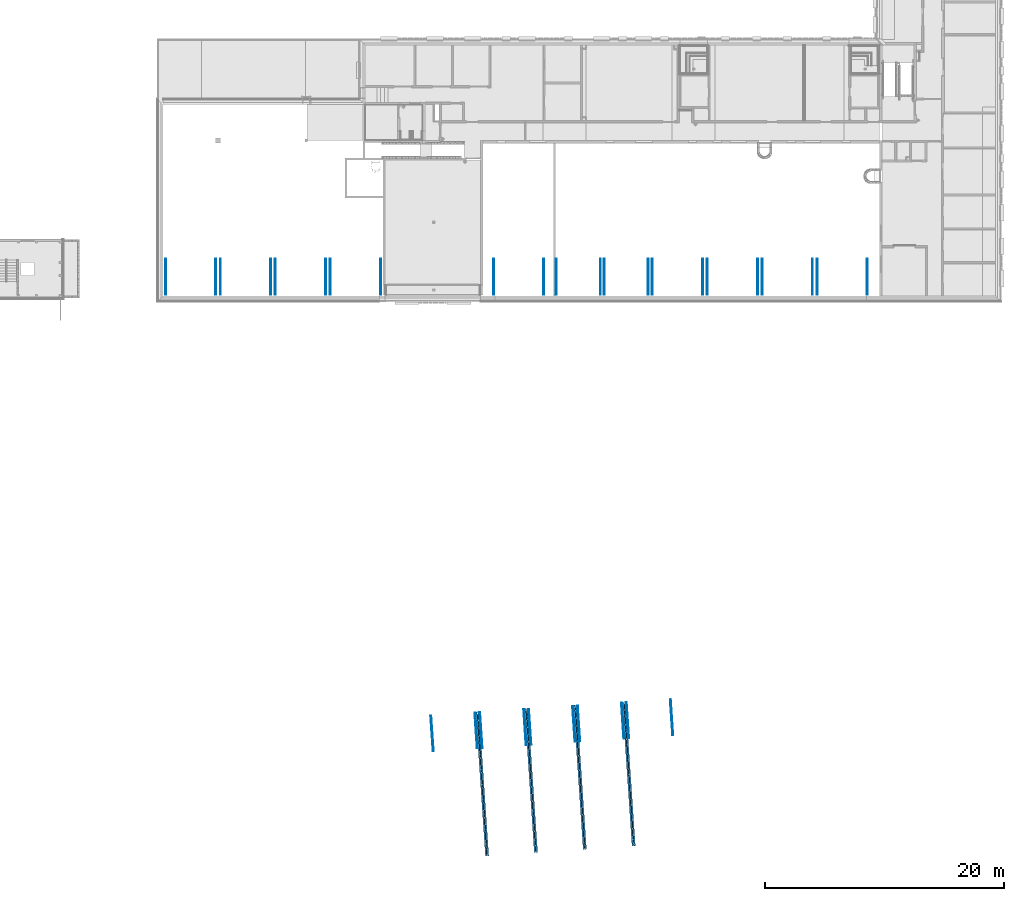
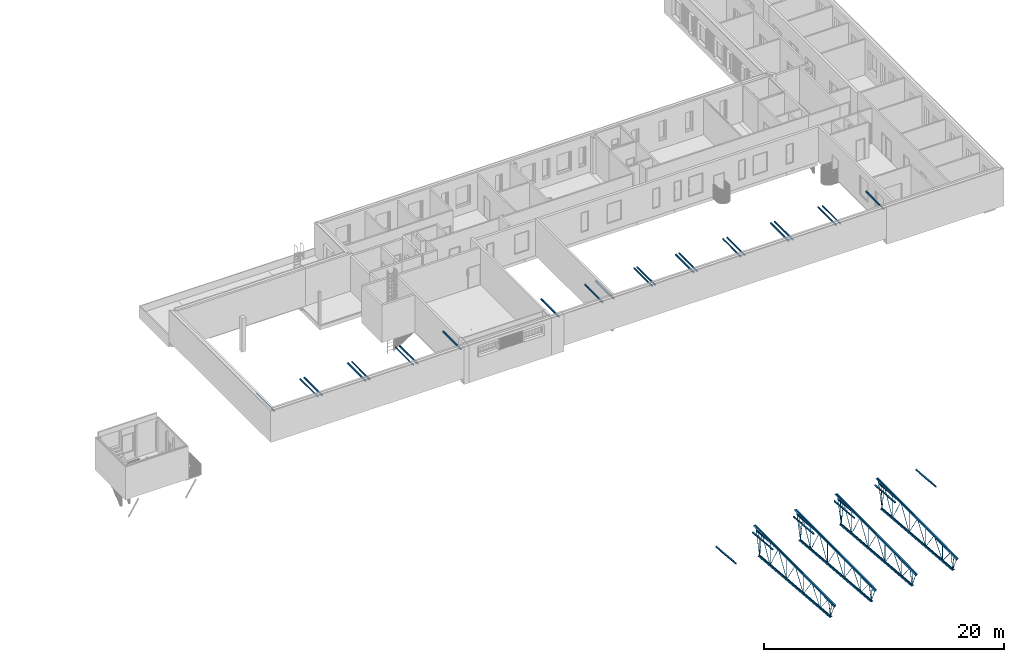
# One storey, part 2 of 100: 36 beams.
"""IFC2X3 building model written with IfcOpenShell, lengths in millimetres."""

from ifc_helpers import new_model, entity, si_unit, converted_unit, derived_unit, money_unit, direction, frame, frame_2d, origin_with_axes, place, context, subcontext, project, spatial, rectangle, extrude, faceted_brep, source, transform, mapped, material, type_object, element, save


model = new_model("IFC2X3")

# Units and contexts
model_context = context("Model", 3, precision=0.01, world=origin_with_axes(), true_north=direction((0.0, 1.0)))
body_context = subcontext(model_context, "Body", "Model", "MODEL_VIEW")
ifc_project = project(units=[si_unit("LENGTHUNIT", "METRE", prefix="MILLI"), si_unit("AREAUNIT", "SQUARE_METRE"), si_unit("VOLUMEUNIT", "CUBIC_METRE"), converted_unit("PLANEANGLEUNIT", "DEGREE", entity("IfcPlaneAngleMeasure", 0.0174532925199), si_unit("PLANEANGLEUNIT", "RADIAN"), dimensions=[0, 0, 0, 0, 0, 0, 0]), si_unit("SOLIDANGLEUNIT", "STERADIAN"), money_unit("EUR"), converted_unit("TIMEUNIT", "Year", entity("IfcTimeMeasure", 31556926.0), si_unit("TIMEUNIT", "SECOND"), dimensions=[0, 0, 1, 0, 0, 0, 0]), si_unit("MASSUNIT", "GRAM", prefix="KILO"), si_unit("THERMODYNAMICTEMPERATUREUNIT", "DEGREE_CELSIUS"), si_unit("LUMINOUSINTENSITYUNIT", "LUMEN"), si_unit("ENERGYUNIT", "JOULE", prefix="MEGA"), derived_unit("THERMALCONDUCTANCEUNIT", [(si_unit("POWERUNIT", "WATT"), 1), (si_unit("LENGTHUNIT", "METRE"), -1), (si_unit("THERMODYNAMICTEMPERATUREUNIT", "KELVIN"), -1)]), derived_unit("SPECIFICHEATCAPACITYUNIT", [(si_unit("ENERGYUNIT", "JOULE"), 1), (si_unit("MASSUNIT", "GRAM", prefix="KILO"), -1), (si_unit("THERMODYNAMICTEMPERATUREUNIT", "KELVIN"), -1)]), derived_unit("MASSDENSITYUNIT", [(si_unit("MASSUNIT", "GRAM", prefix="KILO"), 1), (si_unit("VOLUMEUNIT", "CUBIC_METRE"), -1)])], contexts=[model_context])

# Site, building, storey
site_placement = place(None, origin_with_axes())
site = spatial("IfcSite", under=ifc_project, at=site_placement, Name="Politse- ja Piirivalveameti ning Päästeameti ühishoone", CompositionType="ELEMENT")
building_placement = place(site_placement, origin_with_axes())
building = spatial("IfcBuilding", under=site, at=building_placement, Name="Politse- ja Piirivalveameti ning Päästeameti ühishoone", CompositionType="ELEMENT")
storey_placement = place(building_placement, frame((0.0, 0.0, 3800.0), z_axis=(0.0, 0.0, 1.0), x_axis=(1.0, 0.0, 0.0)))
storey = spatial("IfcBuildingStorey", under=building, at=storey_placement, Name="Teine korrus", CompositionType="ELEMENT", Elevation=3800.0)

# Beams
ifc_material_1 = material(Name="KON-00_GENEERILINE - KONSTRUKTSIOON")
beam_type_1 = type_object("IfcBeamType", Name="KON-00_GENEERILINE - KONSTRUKTSIOON 80 x 100", PredefinedType="BEAM")
for number, where, z_axis, x_axis in (
    (1, (4399.34846005, 96.5881643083, 3140.0), (0.0, 0.0, 1.0), (1.0, 0.0, 0.0)),
    (2, (4800.66559551, 96.5881643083, 3140.0), (0.0, 0.0, 1.0), (1.0, 0.0, 0.0)),
    (3, (199.757872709, 96.5881643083, 3140.0), (0.0, 0.0, 1.0), (1.0, 0.0, 0.0)),
    (4, (9000.16441232, 96.5881643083, 3140.0), (0.0, 0.0, 1.0), (1.0, 0.0, 0.0)),
    (5, (9399.48154778, 96.5881643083, 3140.0), (0.0, 0.0, 1.0), (1.0, 0.0, 0.0)),
    (6, (18199.6782559, 96.5881643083, 3140.0), (0.0, 0.0, 1.0), (1.0, 0.0, 0.0)),
    (7, (13599.3611204, 96.5881643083, 3140.0), (0.0, 0.0, 1.0), (1.0, 0.0, 0.0)),
    (8, (13999.6782559, 96.5881643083, 3140.0), (0.0, 0.0, 1.0), (1.0, 0.0, 0.0)),
    (9, (27659.4992359, 96.5881643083, 3140.0), (0.0, 0.0, 1.0), (1.0, 0.0, 0.0)),
    (10, (31859.4992359, 96.5881643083, 3140.0), (0.0, 0.0, 1.0), (1.0, 0.0, 0.0)),
    (11, (40960.3210844, 96.5881643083, 3140.0), (0.0, 0.0, 1.0), (1.0, 0.0, 0.0)),
    (12, (45160.3210844, 96.5881643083, 3140.0), (0.0, 0.0, 1.0), (1.0, 0.0, 0.0)),
    (13, (45560.3281121, 96.5881643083, 3140.0), (0.0, 0.0, 1.0), (1.0, 0.0, 0.0)),
    (14, (49760.3281121, 96.5881643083, 3140.0), (0.0, 0.0, 1.0), (1.0, 0.0, 0.0)),
    (15, (50160.3351399, 96.5881643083, 3140.0), (0.0, 0.0, 1.0), (1.0, 0.0, 0.0)),
    (16, (54360.3351399, 96.5881643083, 3140.0), (0.0, 0.0, 1.0), (1.0, 0.0, 0.0)),
    (17, (54760.3421677, 96.5881643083, 3140.0), (0.0, 0.0, 1.0), (1.0, 0.0, 0.0)),
    (18, (58960.3421677, 96.5881643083, 3140.0), (0.0, 0.0, 1.0), (1.0, 0.0, 0.0)),
    (19, (32909.5366733, 96.5881643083, 3140.0), (0.0, 0.0, 1.0), (1.0, 0.0, 0.0)),
    (20, (36609.7115773, 96.5881643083, 3140.0), (0.0, 0.0, 1.0), (1.0, 0.0, 0.0)),
    (21, (36909.9114587, 96.5881643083, 3140.0), (0.0, 0.0, 1.0), (1.0, 0.0, 0.0)),
    (22, (40610.0863627, 96.5881643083, 3140.0), (0.0, 0.0, 1.0), (1.0, 0.0, 0.0)),
    (23, (26109.1090368, -34892.4626062, 2940.0), (0.0, 0.0, 1.0), (-0.997742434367, -0.0671567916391, 0.0)),
    (24, (22417.2875206, -35140.9544813, 2940.0), (0.0, 0.0, 1.0), (-0.997742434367, -0.0671567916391, 0.0)),
    (25, (30199.8530177, -34617.1197605, 2940.0), (0.0, 0.0, 1.0), (-0.997742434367, -0.0671567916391, 0.0)),
    (26, (26508.0315015, -34865.6116355, 2940.0), (0.0, 0.0, 1.0), (-0.997742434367, -0.0671567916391, 0.0)),
    (27, (34290.5969987, -34341.7769148, 2940.0), (0.0, 0.0, 1.0), (-0.997742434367, -0.0671567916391, 0.0)),
    (28, (30598.7754824, -34590.2687898, 2940.0), (0.0, 0.0, 1.0), (-0.997742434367, -0.0671567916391, 0.0)),
    (29, (38381.3409796, -34066.434069, 2940.0), (0.0, 0.0, 1.0), (-0.997742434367, -0.0671567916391, 0.0)),
    (30, (34689.5194633, -34314.9259441, 2940.0), (0.0, 0.0, 1.0), (-0.997742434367, -0.0671567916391, 0.0)),
    (31, (42472.0849605, -33791.0912233, 2940.0), (0.0, 0.0, 1.0), (-0.997742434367, -0.0671567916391, 0.0)),
    (32, (38780.2634442, -34039.5830984, 2940.0), (0.0, 0.0, 1.0), (-0.997742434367, -0.0671567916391, 0.0)),
):
    element("IfcBeam", number, at=place(storey_placement, frame(where, z_axis=z_axis, x_axis=x_axis)), inside=storey, type_object=beam_type_1, material=ifc_material_1, Name="tõstukse siin", ObjectType="BEAM", context=body_context, shape_type="SweptSolid", body=[
        extrude(rectangle(XDim=100.0, YDim=80.0, at=frame_2d((50.0, 0.0), x_axis=(1.0, 0.0))), frame((0.0, 0.0, 0.0), z_axis=(0.0, 1.0, 0.0), x_axis=(0.0, 0.0, 1.0)), (0.0, 0.0, 1.0), 3000.0),
    ])
ifc_material_2 = material(Name="ET-05_Teras")
beam_type_2 = type_object("IfcBeamType", Name="Top Chord Pitched-1Way 01 23", PredefinedType="BEAM")
shared_shape = source(origin_with_axes(), body_context, "Body", "Brep", [
    faceted_brep([(99.9687646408, 25.0, -10.1663150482), (99.9687646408, 145.0, -10.1663150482), (0.0, 145.0, 0.0), (-5900.0, 145.0, 600.0), (-11800.0, 145.0, 1200.0), (-11998.9737675, 145.0, 1220.23462042), (-11998.9737675, 25.0, 1220.23462042), (-11800.0, 25.0, 1200.0), (-5900.0, 25.0, 600.0), (0.0, 25.0, 0.0), (87.8279923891, 25.0, -129.550575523), (87.8279923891, 30.0, -129.550575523), (99.4628991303, 30.0, -15.1406592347), (99.4628991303, 145.0, -15.1406592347), (-0.505865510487, 145.0, -4.97434418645), (-5900.50586551, 145.0, 595.025655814), (-11800.5058655, 145.0, 1195.02565581), (-11999.479633, 145.0, 1215.26027623), (-11999.479633, 30.0, 1215.26027623), (-12011.1145397, 30.0, 1100.85035994), (-12011.1145397, 25.0, 1100.85035994), (-11812.1407723, 25.0, 1080.61573953), (-5912.14077225, 25.0, 480.615739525), (-12.1407722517, 25.0, -119.384260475), (-11812.1407723, 30.0, 1080.61573953), (-5912.14077225, 30.0, 480.615739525), (-12.1407722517, 30.0, -119.384260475), (-11800.5058655, 30.0, 1195.02565581), (-5900.50586551, 30.0, 595.025655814), (-0.505865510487, 30.0, -4.97434418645)], [[[0, 1, 2, 3, 4, 5, 6, 7, 8, 9]], [[0, 10, 11, 12, 13, 1]], [[1, 13, 14, 15, 16, 17, 5, 4, 3, 2]], [[6, 5, 17, 18, 19, 20]], [[10, 0, 9, 8, 7, 6, 20, 21, 22, 23]], [[11, 10, 23, 22, 21, 20, 19, 24, 25, 26]], [[12, 11, 26, 25, 24, 19, 18, 27, 28, 29]], [[13, 12, 29, 28, 27, 18, 17, 16, 15, 14]]]),
    faceted_brep([(99.9687646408, -25.0, -10.1663150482), (0.0, -25.0, 0.0), (-5900.0, -25.0, 600.0), (-11800.0, -25.0, 1200.0), (-11998.9737675, -25.0, 1220.23462042), (-11998.9737675, -145.0, 1220.23462042), (-11800.0, -145.0, 1200.0), (-5900.0, -145.0, 600.0), (0.0, -145.0, 0.0), (99.9687646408, -145.0, -10.1663150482), (87.8279923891, -25.0, -129.550575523), (-12.1407722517, -25.0, -119.384260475), (-5912.14077225, -25.0, 480.615739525), (-11812.1407723, -25.0, 1080.61573953), (-12011.1145397, -25.0, 1100.85035994), (-12011.1145397, -30.0, 1100.85035994), (-11999.479633, -30.0, 1215.26027623), (-11999.479633, -145.0, 1215.26027623), (-11800.5058655, -145.0, 1195.02565581), (-5900.50586551, -145.0, 595.025655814), (-0.505865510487, -145.0, -4.97434418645), (99.4628991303, -145.0, -15.1406592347), (99.4628991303, -30.0, -15.1406592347), (87.8279923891, -30.0, -129.550575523), (-12.1407722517, -30.0, -119.384260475), (-5912.14077225, -30.0, 480.615739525), (-11812.1407723, -30.0, 1080.61573953), (-0.505865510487, -30.0, -4.97434418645), (-5900.50586551, -30.0, 595.025655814), (-11800.5058655, -30.0, 1195.02565581)], [[[0, 1, 2, 3, 4, 5, 6, 7, 8, 9]], [[10, 11, 12, 13, 14, 4, 3, 2, 1, 0]], [[4, 14, 15, 16, 17, 5]], [[9, 8, 7, 6, 5, 17, 18, 19, 20, 21]], [[0, 9, 21, 22, 23, 10]], [[23, 24, 25, 26, 15, 14, 13, 12, 11, 10]], [[22, 27, 28, 29, 16, 15, 26, 25, 24, 23]], [[21, 20, 19, 18, 17, 16, 29, 28, 27, 22]]]),
    faceted_brep([(-480.0, 25.0, -1500.0), (-600.0, 25.0, -1500.0), (-5900.0, 25.0, -1500.0), (-11200.0, 25.0, -1500.0), (-11320.0, 25.0, -1500.0), (-11320.0, 145.0, -1500.0), (-11200.0, 145.0, -1500.0), (-5900.0, 145.0, -1500.0), (-600.0, 145.0, -1500.0), (-480.0, 145.0, -1500.0), (-480.0, 25.0, -1380.0), (-600.0, 25.0, -1380.0), (-5900.0, 25.0, -1380.0), (-11200.0, 25.0, -1380.0), (-11320.0, 25.0, -1380.0), (-11320.0, 30.0, -1380.0), (-11320.0, 30.0, -1495.0), (-11320.0, 145.0, -1495.0), (-11200.0, 145.0, -1495.0), (-5900.0, 145.0, -1495.0), (-600.0, 145.0, -1495.0), (-480.0, 145.0, -1495.0), (-480.0, 30.0, -1495.0), (-480.0, 30.0, -1380.0), (-600.0, 30.0, -1380.0), (-5900.0, 30.0, -1380.0), (-11200.0, 30.0, -1380.0), (-600.0, 30.0, -1495.0), (-5900.0, 30.0, -1495.0), (-11200.0, 30.0, -1495.0)], [[[0, 1, 2, 3, 4, 5, 6, 7, 8, 9]], [[10, 11, 12, 13, 14, 4, 3, 2, 1, 0]], [[4, 14, 15, 16, 17, 5]], [[9, 8, 7, 6, 5, 17, 18, 19, 20, 21]], [[0, 9, 21, 22, 23, 10]], [[23, 24, 25, 26, 15, 14, 13, 12, 11, 10]], [[22, 27, 28, 29, 16, 15, 26, 25, 24, 23]], [[21, 20, 19, 18, 17, 16, 29, 28, 27, 22]]]),
    faceted_brep([(-480.0, -25.0, -1500.0), (-480.0, -145.0, -1500.0), (-600.0, -145.0, -1500.0), (-5900.0, -145.0, -1500.0), (-11200.0, -145.0, -1500.0), (-11320.0, -145.0, -1500.0), (-11320.0, -25.0, -1500.0), (-11200.0, -25.0, -1500.0), (-5900.0, -25.0, -1500.0), (-600.0, -25.0, -1500.0), (-480.0, -25.0, -1380.0), (-480.0, -30.0, -1380.0), (-480.0, -30.0, -1495.0), (-480.0, -145.0, -1495.0), (-600.0, -145.0, -1495.0), (-5900.0, -145.0, -1495.0), (-11200.0, -145.0, -1495.0), (-11320.0, -145.0, -1495.0), (-11320.0, -30.0, -1495.0), (-11320.0, -30.0, -1380.0), (-11320.0, -25.0, -1380.0), (-11200.0, -25.0, -1380.0), (-5900.0, -25.0, -1380.0), (-600.0, -25.0, -1380.0), (-11200.0, -30.0, -1380.0), (-5900.0, -30.0, -1380.0), (-600.0, -30.0, -1380.0), (-11200.0, -30.0, -1495.0), (-5900.0, -30.0, -1495.0), (-600.0, -30.0, -1495.0)], [[[0, 1, 2, 3, 4, 5, 6, 7, 8, 9]], [[0, 10, 11, 12, 13, 1]], [[1, 13, 14, 15, 16, 17, 5, 4, 3, 2]], [[6, 5, 17, 18, 19, 20]], [[10, 0, 9, 8, 7, 6, 20, 21, 22, 23]], [[11, 10, 23, 22, 21, 20, 19, 24, 25, 26]], [[12, 11, 26, 25, 24, 19, 18, 27, 28, 29]], [[13, 12, 29, 28, 27, 18, 17, 16, 15, 14]]]),
    faceted_brep([(87.3461114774, -80.0, -129.501570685), (87.3461114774, -80.0, -126.501570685), (-232.653888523, -80.0, -126.501570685), (-232.653888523, -80.0, -129.501570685), (87.3461114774, -30.0, -129.501570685), (87.3461114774, -30.0, -79.5015706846), (87.3461114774, -33.0, -79.5015706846), (87.3461114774, -33.0, -126.501570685), (-232.653888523, -33.0, -126.501570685), (-232.653888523, -33.0, -79.5015706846), (-232.653888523, -30.0, -79.5015706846), (-232.653888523, -30.0, -129.501570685)], [[[0, 1, 2, 3]], [[0, 4, 5, 6, 7, 1]], [[1, 7, 8, 2]], [[3, 2, 8, 9, 10, 11]], [[4, 0, 3, 11]], [[5, 4, 11, 10]], [[6, 5, 10, 9]], [[7, 6, 9, 8]]]),
    faceted_brep([(87.3461114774, 80.0, -129.501570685), (-232.653888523, 80.0, -129.501570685), (-232.653888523, 80.0, -126.501570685), (87.3461114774, 80.0, -126.501570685), (87.3461114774, 30.0, -129.501570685), (-232.653888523, 30.0, -129.501570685), (-232.653888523, 30.0, -79.5015706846), (-232.653888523, 33.0, -79.5015706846), (-232.653888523, 33.0, -126.501570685), (87.3461114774, 33.0, -126.501570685), (87.3461114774, 33.0, -79.5015706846), (87.3461114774, 30.0, -79.5015706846)], [[[0, 1, 2, 3]], [[4, 5, 1, 0]], [[1, 5, 6, 7, 8, 2]], [[3, 2, 8, 9]], [[0, 3, 9, 10, 11, 4]], [[11, 6, 5, 4]], [[10, 7, 6, 11]], [[9, 8, 7, 10]]]),
    faceted_brep([(-11812.1407723, -80.0, 1080.61573953), (-11492.1407723, -80.0, 1080.61573953), (-11492.1407723, -80.0, 1083.61573953), (-11812.1407723, -80.0, 1083.61573953), (-11812.1407723, -30.0, 1080.61573953), (-11492.1407723, -30.0, 1080.61573953), (-11492.1407723, -30.0, 1130.61573953), (-11492.1407723, -33.0, 1130.61573953), (-11492.1407723, -33.0, 1083.61573953), (-11812.1407723, -33.0, 1083.61573953), (-11812.1407723, -33.0, 1130.61573953), (-11812.1407723, -30.0, 1130.61573953)], [[[0, 1, 2, 3]], [[4, 5, 1, 0]], [[1, 5, 6, 7, 8, 2]], [[3, 2, 8, 9]], [[0, 3, 9, 10, 11, 4]], [[11, 6, 5, 4]], [[10, 7, 6, 11]], [[9, 8, 7, 10]]]),
    faceted_brep([(-11812.1407723, 80.0, 1080.61573953), (-11812.1407723, 80.0, 1083.61573953), (-11492.1407723, 80.0, 1083.61573953), (-11492.1407723, 80.0, 1080.61573953), (-11812.1407723, 30.0, 1080.61573953), (-11812.1407723, 30.0, 1130.61573953), (-11812.1407723, 33.0, 1130.61573953), (-11812.1407723, 33.0, 1083.61573953), (-11492.1407723, 33.0, 1083.61573953), (-11492.1407723, 33.0, 1130.61573953), (-11492.1407723, 30.0, 1130.61573953), (-11492.1407723, 30.0, 1080.61573953)], [[[0, 1, 2, 3]], [[0, 4, 5, 6, 7, 1]], [[1, 7, 8, 2]], [[3, 2, 8, 9, 10, 11]], [[4, 0, 3, 11]], [[5, 4, 11, 10]], [[6, 5, 10, 9]], [[7, 6, 9, 8]]]),
    faceted_brep([(-2162.5, 21.6506350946, -1495.0), (-2175.0, 0.0, -1495.0), (-2175.0, 0.0, 216.160652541), (-2162.5, 21.6506350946, 214.889466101), (-2137.5, 21.6506350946, -1495.0), (-2125.0, 0.0, -1495.0), (-2137.5, -21.6506350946, -1495.0), (-2162.5, -21.6506350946, -1495.0), (-2162.5, -21.6506350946, 214.889466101), (-2137.5, -21.6506350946, 212.347093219), (-2125.0, 0.0, 211.075906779), (-2137.5, 21.6506350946, 212.347093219)], [[[0, 1, 2, 3]], [[1, 0, 4, 5, 6, 7]], [[1, 7, 8, 2]], [[2, 8, 9, 10, 11, 3]], [[4, 0, 3, 11]], [[5, 4, 11, 10]], [[6, 5, 10, 9]], [[7, 6, 9, 8]]]),
    faceted_brep([(-2114.28391012, 0.0, -1495.0), (-2130.17843003, 21.6506350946, -1495.0), (-890.169567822, 21.6506350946, 83.8045038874), (-880.339135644, 0.0, 76.0835840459), (-2156.36610169, 21.6506350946, -1495.0), (-2130.17843003, -21.6506350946, -1495.0), (-2156.36610169, -21.6506350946, -1495.0), (-2159.83043218, 21.6506350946, -1492.27908016), (-918.374233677, 21.6506350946, 88.3682017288), (-892.649294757, 21.6506350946, 85.7521062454), (-892.649294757, -21.6506350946, 85.7521062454), (-890.169567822, -21.6506350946, 83.8045038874), (-2159.83043218, -21.6506350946, -1492.27908016), (-918.374233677, -21.6506350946, 88.3682017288), (-2169.66086436, 0.0, -1484.55816032), (-933.093123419, 0.0, 89.8650379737)], [[[0, 1, 2, 3]], [[4, 1, 0, 5, 6]], [[1, 4, 7, 8, 9, 2]], [[3, 2, 9, 10, 11]], [[5, 0, 3, 11]], [[12, 6, 5, 11, 10, 13]], [[4, 6, 12, 14, 7]], [[7, 14, 15, 8]], [[9, 8, 15, 13, 10]], [[14, 12, 13, 15]]]),
    faceted_brep([(-2168.48288536, 21.6506350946, -1495.0), (-2183.57963665, 0.0, -1495.0), (-3420.69981773, 0.0, 331.744240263), (-3410.34990886, 21.6506350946, 338.753476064), (-2142.61694915, 21.6506350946, -1495.0), (-2142.61694915, -21.6506350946, -1495.0), (-2168.48288536, -21.6506350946, -1495.0), (-3410.34990886, -21.6506350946, 338.753476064), (-3406.45223769, -21.6506350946, 341.393083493), (-3406.45223769, 21.6506350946, 341.393083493), (-3380.13128116, 21.6506350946, 338.716376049), (-2139.65009114, 21.6506350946, -1492.9907642), (-2129.30018227, 0.0, -1485.9815284), (-2139.65009114, -21.6506350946, -1492.9907642), (-3380.13128116, -21.6506350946, 338.716376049), (-3363.91790625, 0.0, 337.067558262)], [[[0, 1, 2, 3]], [[4, 5, 6, 1, 0]], [[1, 6, 7, 2]], [[2, 7, 8, 9, 3]], [[4, 0, 3, 9, 10, 11]], [[5, 4, 11, 12, 13]], [[13, 14, 8, 7, 6, 5]], [[9, 8, 14, 15, 10]], [[11, 10, 15, 12]], [[12, 15, 14, 13]]]),
    faceted_brep([(-4662.5, 21.6506350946, -1495.0), (-4675.0, 0.0, -1495.0), (-4675.0, 0.0, 470.397940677), (-4662.5, 21.6506350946, 469.126754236), (-4637.5, 21.6506350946, -1495.0), (-4625.0, 0.0, -1495.0), (-4637.5, -21.6506350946, -1495.0), (-4662.5, -21.6506350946, -1495.0), (-4662.5, -21.6506350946, 469.126754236), (-4637.5, -21.6506350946, 466.584381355), (-4625.0, 0.0, 465.313194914), (-4637.5, 21.6506350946, 466.584381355)], [[[0, 1, 2, 3]], [[1, 0, 4, 5, 6, 7]], [[1, 7, 8, 2]], [[2, 8, 9, 10, 11, 3]], [[4, 0, 3, 11]], [[5, 4, 11, 10]], [[6, 5, 10, 9]], [[7, 6, 9, 8]]]),
    faceted_brep([(-4616.42036335, 0.0, -1495.0), (-4631.51711464, 21.6506350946, -1495.0), (-3389.65009114, 21.6506350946, 338.753476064), (-3379.30018227, 0.0, 331.744240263), (-4657.38305085, 21.6506350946, -1495.0), (-4631.51711464, -21.6506350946, -1495.0), (-4657.38305085, -21.6506350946, -1495.0), (-4660.34990886, 21.6506350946, -1492.9907642), (-3417.30831693, 21.6506350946, 342.497091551), (-3391.26757674, 21.6506350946, 339.848880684), (-3391.26757674, -21.6506350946, 339.848880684), (-3389.65009114, -21.6506350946, 338.753476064), (-4660.34990886, -21.6506350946, -1492.9907642), (-3417.30831693, -21.6506350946, 342.497091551), (-4670.69981773, 0.0, -1485.9815284), (-3431.4323394, 0.0, 343.933432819)], [[[0, 1, 2, 3]], [[4, 1, 0, 5, 6]], [[1, 4, 7, 8, 9, 2]], [[3, 2, 9, 10, 11]], [[5, 0, 3, 11]], [[12, 6, 5, 11, 10, 13]], [[4, 6, 12, 14, 7]], [[7, 14, 15, 8]], [[9, 8, 15, 13, 10]], [[14, 12, 13, 15]]]),
    faceted_brep([(-4667.52303501, 21.6506350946, -1495.0), (-4682.06987955, 0.0, -1495.0), (-5921.48232211, 0.0, 587.212903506), (-5910.74116106, 21.6506350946, 593.606451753), (-4641.6, 21.6506350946, -1495.0), (-4641.6, -21.6506350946, -1495.0), (-4667.52303501, -21.6506350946, -1495.0), (-5910.74116106, -21.6506350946, 593.606451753), (-5907.211293, -21.6506350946, 595.707563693), (-5907.211293, 21.6506350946, 595.707563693), (-5881.33156432, 21.6506350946, 593.075726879), (-4639.25883894, 21.6506350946, -1493.60645175), (-4628.51767789, 0.0, -1487.21290351), (-4639.25883894, -21.6506350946, -1493.60645175), (-5881.33156432, -21.6506350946, 593.075726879), (-5865.8474231, 0.0, 591.50106845)], [[[0, 1, 2, 3]], [[4, 5, 6, 1, 0]], [[1, 6, 7, 2]], [[2, 7, 8, 9, 3]], [[4, 0, 3, 9, 10, 11]], [[5, 4, 11, 12, 13]], [[13, 14, 8, 7, 6, 5]], [[9, 8, 14, 15, 10]], [[11, 10, 15, 12]], [[12, 15, 14, 13]]]),
    faceted_brep([(-7162.5, 21.6506350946, -1495.0), (-7175.0, 0.0, -1495.0), (-7175.0, 0.0, 724.635228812), (-7162.5, 21.6506350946, 723.364042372), (-7137.5, 21.6506350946, -1495.0), (-7125.0, 0.0, -1495.0), (-7137.5, -21.6506350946, -1495.0), (-7162.5, -21.6506350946, -1495.0), (-7162.5, -21.6506350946, 723.364042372), (-7137.5, -21.6506350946, 720.82166949), (-7125.0, 0.0, 719.55048305), (-7137.5, 21.6506350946, 720.82166949)], [[[0, 1, 2, 3]], [[1, 0, 4, 5, 6, 7]], [[1, 7, 8, 2]], [[2, 8, 9, 10, 11, 3]], [[4, 0, 3, 11]], [[5, 4, 11, 10]], [[6, 5, 10, 9]], [[7, 6, 9, 8]]]),
    faceted_brep([(-7117.93012045, 0.0, -1495.0), (-7132.47696499, 21.6506350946, -1495.0), (-5889.25883894, 21.6506350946, 593.606451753), (-5878.51767789, 0.0, 587.212903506), (-7158.4, 21.6506350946, -1495.0), (-7132.47696499, -21.6506350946, -1495.0), (-7158.4, -21.6506350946, -1495.0), (-7160.74116106, 21.6506350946, -1493.60645175), (-5916.53733572, 21.6506350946, 596.655974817), (-5889.81692314, 21.6506350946, 593.938644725), (-5889.81692314, -21.6506350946, 593.938644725), (-5889.25883894, -21.6506350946, 593.606451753), (-7160.74116106, -21.6506350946, -1493.60645175), (-5916.53733572, -21.6506350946, 596.655974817), (-7171.48232211, 0.0, -1487.21290351), (-5930.25388091, 0.0, 598.050877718)], [[[0, 1, 2, 3]], [[4, 1, 0, 5, 6]], [[1, 4, 7, 8, 9, 2]], [[3, 2, 9, 10, 11]], [[5, 0, 3, 11]], [[12, 6, 5, 11, 10, 13]], [[4, 6, 12, 14, 7]], [[7, 14, 15, 8]], [[9, 8, 15, 13, 10]], [[14, 12, 13, 15]]]),
    faceted_brep([(-7166.80750319, 21.6506350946, -1495.0), (-7180.96021876, 0.0, -1495.0), (-8422.0805681, 0.0, 842.513444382), (-8411.04028405, 21.6506350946, 848.375366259), (-7140.58305085, 21.6506350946, -1495.0), (-7140.58305085, -21.6506350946, -1495.0), (-7166.80750319, -21.6506350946, -1495.0), (-8411.04028405, -21.6506350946, 848.375366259), (-8407.94399552, -21.6506350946, 850.01936395), (-8407.94399552, 21.6506350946, 850.01936395), (-8382.2186905, 21.6506350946, 847.403231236), (-7138.95971595, 21.6506350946, -1494.13807812), (-7127.9194319, 0.0, -1488.27615625), (-7138.95971595, -21.6506350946, -1494.13807812), (-8382.2186905, -21.6506350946, 847.403231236), (-8367.25817153, 0.0, 845.881822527)], [[[0, 1, 2, 3]], [[4, 5, 6, 1, 0]], [[1, 6, 7, 2]], [[2, 7, 8, 9, 3]], [[4, 0, 3, 9, 10, 11]], [[5, 4, 11, 12, 13]], [[13, 14, 8, 7, 6, 5]], [[9, 8, 14, 15, 10]], [[11, 10, 15, 12]], [[12, 15, 14, 13]]]),
    faceted_brep([(-9662.5, 21.6506350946, -1495.0), (-9675.0, 0.0, -1495.0), (-9675.0, 0.0, 978.872516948), (-9662.5, 21.6506350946, 977.601330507), (-9637.5, 21.6506350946, -1495.0), (-9625.0, 0.0, -1495.0), (-9637.5, -21.6506350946, -1495.0), (-9662.5, -21.6506350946, -1495.0), (-9662.5, -21.6506350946, 977.601330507), (-9637.5, -21.6506350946, 975.058957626), (-9625.0, 0.0, 973.787771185), (-9637.5, 21.6506350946, 975.058957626)], [[[0, 1, 2, 3]], [[1, 0, 4, 5, 6, 7]], [[1, 7, 8, 2]], [[2, 8, 9, 10, 11, 3]], [[4, 0, 3, 11]], [[5, 4, 11, 10]], [[6, 5, 10, 9]], [[7, 6, 9, 8]]]),
    faceted_brep([(-9619.03978124, 0.0, -1495.0), (-9633.19249681, 21.6506350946, -1495.0), (-8389.10409619, 21.6506350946, 848.103441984), (-8388.29204305, 20.3412899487, 848.020860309), (-8377.9194319, 0.0, 842.513444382), (-9659.41694915, 21.6506350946, -1495.0), (-9633.19249681, -21.6506350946, -1495.0), (-9659.41694915, -21.6506350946, -1495.0), (-9661.04028405, 21.6506350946, -1494.13807812), (-8415.95945402, 21.6506350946, 850.834495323), (-8429.38713293, 0.0, 852.200021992), (-8415.95945402, -21.6506350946, 850.834495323), (-8389.10409619, -21.6506350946, 848.103441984), (-8388.29204305, -20.3412899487, 848.020860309), (-9661.04028405, -21.6506350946, -1494.13807812), (-9672.0805681, 0.0, -1488.27615625)], [[[0, 1, 2, 3, 4]], [[5, 1, 0, 6, 7]], [[1, 5, 8, 9, 2]], [[3, 2, 9, 10, 11, 12, 13]], [[4, 3, 13]], [[6, 0, 4, 13, 12]], [[14, 7, 6, 12, 11]], [[5, 7, 14, 15, 8]], [[8, 15, 10, 9]], [[15, 14, 11, 10]]]),
    faceted_brep([(-9666.25717594, 21.6506350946, -1495.0), (-9680.1183155, 0.0, -1495.0), (-10922.5450439, 0.0, 1097.67082716), (-10911.272522, 21.6506350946, 1103.07270171), (-9639.56610169, 21.6506350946, -1495.0), (-9639.56610169, -21.6506350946, -1495.0), (-9666.25717594, -21.6506350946, -1495.0), (-10911.272522, -21.6506350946, 1103.07270171), (-10908.6516942, -21.6506350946, 1104.32862144), (-10908.6516942, 21.6506350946, 1104.32862144), (-10882.896986, 21.6506350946, 1101.70949857), (-9638.72747804, 21.6506350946, -1494.59812544), (-9627.45495609, 0.0, -1489.19625089), (-9638.72747804, -21.6506350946, -1494.59812544), (-10882.896986, -21.6506350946, 1101.70949857), (-10868.3257471, 0.0, 1100.22767767)], [[[0, 1, 2, 3]], [[4, 5, 6, 1, 0]], [[1, 6, 7, 2]], [[2, 7, 8, 9, 3]], [[4, 0, 3, 9, 10, 11]], [[5, 4, 11, 12, 13]], [[13, 14, 8, 7, 6, 5]], [[9, 8, 14, 15, 10]], [[11, 10, 15, 12]], [[12, 15, 14, 13]]]),
    faceted_brep([(-11212.8025122, 21.6506350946, -1495.0), (-11225.3224573, 0.0, -1495.0), (-11374.8989633, 0.0, 1151.74359796), (-11362.3066486, 21.6506350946, 1150.46302358), (-11187.7626219, 21.6506350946, -1495.0), (-11175.2426768, 0.0, -1495.0), (-11187.7626219, -21.6506350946, -1495.0), (-11212.8025122, -21.6506350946, -1495.0), (-11362.3066486, -21.6506350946, 1150.46302358), (-11337.1220191, -21.6506350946, 1147.90187482), (-11324.5297043, 0.0, 1146.62130044), (-11337.1220191, 21.6506350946, 1147.90187482)], [[[0, 1, 2, 3]], [[1, 0, 4, 5, 6, 7]], [[1, 7, 8, 2]], [[2, 8, 9, 10, 11, 3]], [[4, 0, 3, 11]], [[5, 4, 11, 10]], [[6, 5, 10, 9]], [[7, 6, 9, 8]]]),
    faceted_brep([(-11213.916034, 21.6506350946, -1495.0), (-11226.7209568, 0.0, -1495.0), (-11824.4046765, 0.0, 1194.57673855), (-11815.5156599, 15.7718013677, 1196.55207558), (-11811.9583257, 21.6506350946, 1196.19031278), (-11177.5, 3.37947163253, -1495.0), (-11177.5, -3.37947163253, -1495.0), (-11188.3061883, -21.6506350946, -1495.0), (-11213.916034, -21.6506350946, -1495.0), (-11188.3061883, 21.6506350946, -1495.0), (-11811.9583257, -21.6506350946, 1196.19031278), (-11815.5156599, -15.7718013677, 1196.55207558), (-11785.7563448, -21.6506350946, 1193.52570456), (-11772.6553544, 0.0, 1192.19340044), (-11785.7563448, 21.6506350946, 1193.52570456), (-11175.5953235, 0.0, -1494.57673855)], [[[0, 1, 2, 3, 4]], [[5, 6, 7, 8, 1, 0, 9]], [[1, 8, 10, 11, 2]], [[2, 11, 3]], [[3, 11, 10, 12, 13, 14, 4]], [[9, 0, 4, 14]], [[6, 5, 15]], [[15, 13, 12, 7, 6]], [[8, 7, 12, 10]], [[5, 9, 14, 13, 15]]]),
    faceted_brep([(-11174.2601539, 0.0, -1495.0), (-11186.8425526, 21.6506350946, -1495.0), (-10888.1343949, 21.6506350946, 1102.24211643), (-10875.6974575, 0.0, 1100.97734314), (-11186.8425526, -21.6506350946, -1495.0), (-11212.0073499, -21.6506350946, -1495.0), (-11224.5897486, 0.0, -1495.0), (-11212.0073499, 21.6506350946, -1495.0), (-10913.0082698, 21.6506350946, 1104.77166303), (-10925.4452072, 0.0, 1106.03643633), (-10913.0082698, -21.6506350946, 1104.77166303), (-10888.1343949, -21.6506350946, 1102.24211643)], [[[0, 1, 2, 3]], [[0, 4, 5, 6, 7, 1]], [[1, 7, 8, 2]], [[3, 2, 8, 9, 10, 11]], [[4, 0, 3, 11]], [[5, 4, 11, 10]], [[6, 5, 10, 9]], [[7, 6, 9, 8]]]),
    faceted_brep([(-574.397370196, 0.0, -1495.0), (-586.956086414, 21.6506350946, -1495.0), (-438.046941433, 21.6506350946, 39.5213584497), (-425.610948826, 0.0, 38.2566812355), (-586.956086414, -21.6506350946, -1495.0), (-612.073518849, -21.6506350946, -1495.0), (-624.632235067, 0.0, -1495.0), (-612.073518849, 21.6506350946, -1495.0), (-462.918926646, 21.6506350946, 42.0507128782), (-475.354919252, 0.0, 43.3153900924), (-462.918926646, -21.6506350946, 42.0507128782), (-438.046941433, -21.6506350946, 39.5213584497)], [[[0, 1, 2, 3]], [[0, 4, 5, 6, 7, 1]], [[1, 7, 8, 2]], [[3, 2, 8, 9, 10, 11]], [[4, 0, 3, 11]], [[5, 4, 11, 10]], [[6, 5, 10, 9]], [[7, 6, 9, 8]]]),
    faceted_brep([(-571.074175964, 0.0, -1495.0), (-584.537087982, 21.6506350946, -1495.0), (11.0049382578, 21.6506350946, -6.14493440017), (16.8478125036, 11.8720835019, -6.73912500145), (23.2119172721, 0.0, -9.28476690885), (-612.5, 19.9828225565, -1495.0), (-611.462912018, 21.6506350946, -1495.0), (-584.537087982, -21.6506350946, -1495.0), (-611.462912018, -21.6506350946, -1495.0), (-612.5, -19.9828225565, -1495.0), (-14.8684105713, 21.6506350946, -3.51374638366), (-27.8050849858, 0.0, -2.1981523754), (-14.8684105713, -21.6506350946, -3.51374638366), (11.0049382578, -21.6506350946, -6.14493440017), (16.8478125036, -11.8720835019, -6.73912500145), (-623.211917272, 0.0, -1490.71523309)], [[[0, 1, 2, 3, 4]], [[5, 6, 1, 0, 7, 8, 9]], [[1, 6, 10, 2]], [[3, 2, 10, 11, 12, 13, 14]], [[4, 3, 14]], [[7, 0, 4, 14, 13]], [[6, 5, 15, 11, 10]], [[8, 7, 13, 12]], [[15, 9, 8, 12, 11]], [[5, 9, 15]]]),
    faceted_brep([(-613.662626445, 21.6506350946, -1495.0), (-626.382760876, 0.0, -1495.0), (-924.567350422, 0.0, 86.8945174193), (-917.318759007, 12.7760303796, 88.2608653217), (-912.002868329, 21.6506350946, 87.7202662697), (-588.222357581, 21.6506350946, -1495.0), (-575.502223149, 0.0, -1495.0), (-588.222357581, -21.6506350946, -1495.0), (-613.662626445, -21.6506350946, -1495.0), (-912.002868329, -21.6506350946, 87.7202662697), (-917.318759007, -12.7760303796, 88.2608653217), (-886.065395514, -21.6506350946, 85.0825571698), (-873.096659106, 0.0, 83.7637026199), (-886.065395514, 21.6506350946, 85.0825571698)], [[[0, 1, 2, 3, 4]], [[1, 0, 5, 6, 7, 8]], [[1, 8, 9, 10, 2]], [[2, 10, 3]], [[3, 10, 9, 11, 12, 13, 4]], [[5, 0, 4, 13]], [[6, 5, 13, 12]], [[7, 6, 12, 11]], [[8, 7, 11, 9]]]),
])
for number, where, z_axis, x_axis, name in (
    (33, (27109.7395297, -46786.2657814, 2404.49159713), (0.0, 0.0, 1.0), (0.0671567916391, -0.997742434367, 0.0), "FERM 1"),
    (34, (31200.4835106, -46510.9229357, 2404.49159713), (0.0, 0.0, 1.0), (0.0671567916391, -0.997742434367, 0.0), "FERM 1"),
    (35, (35291.2274915, -46235.58009, 2404.49159713), (0.0, 0.0, 1.0), (0.0671567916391, -0.997742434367, 0.0), "FERM 1"),
    (36, (39381.9714724, -45960.2372443, 2404.49159713), (0.0, 0.0, 1.0), (0.0671567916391, -0.997742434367, 0.0), "FERM 1"),
):
    element("IfcBeam", number, at=place(storey_placement, frame(where, z_axis=z_axis, x_axis=x_axis)), inside=storey, type_object=beam_type_2, material=ifc_material_2, Name=name, ObjectType="BEAM", context=body_context, shape_type="MappedRepresentation", body=[
        mapped(shared_shape, transform((0.0, 0.0, 0.0))),
    ])

save(model, "model.ifc")
